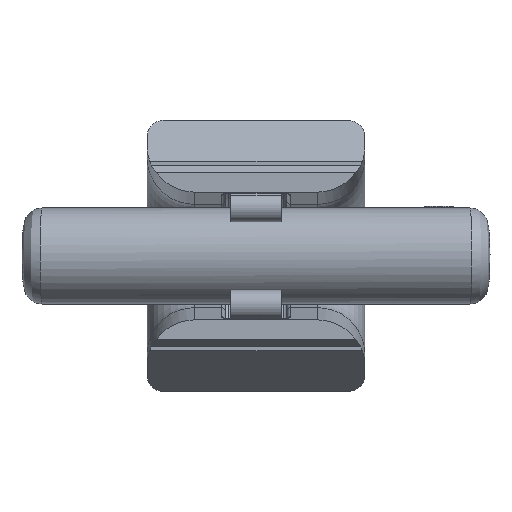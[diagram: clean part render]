
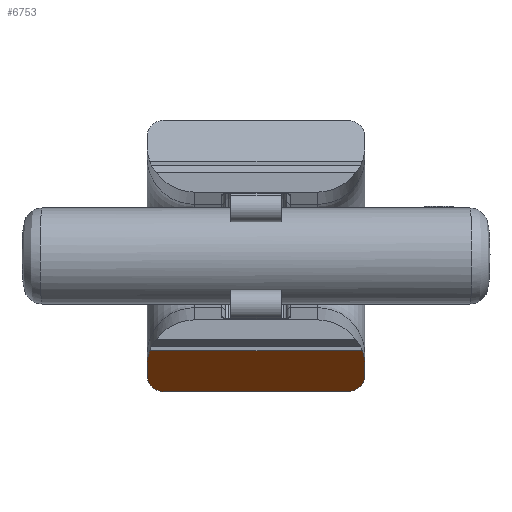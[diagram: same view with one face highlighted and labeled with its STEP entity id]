
A CAD part, front view. The second image highlights one B-rep face of the part: STEP entity #6753.
In plain terms, the highlighted planar face has unit normal (0, -0.643, -0.766).
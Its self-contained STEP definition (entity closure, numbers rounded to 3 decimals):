
#6=DIRECTION('',(0.,-0.766,0.643));
#7=VECTOR('',#6,5.783);
#8=CARTESIAN_POINT('',(-30.,11.5,-33.305));
#9=LINE('',#8,#7);
#24=CARTESIAN_POINT('',(-30.,11.5,-33.305));
#25=CARTESIAN_POINT('',(-30.,12.236,-33.922));
#26=CARTESIAN_POINT('',(-29.704,13.48,-34.966));
#27=CARTESIAN_POINT('',(-28.749,14.957,-36.205));
#28=CARTESIAN_POINT('',(-27.557,15.883,-36.983));
#29=CARTESIAN_POINT('',(-26.277,16.374,-37.395));
#30=CARTESIAN_POINT('',(-25.48,16.5,-37.5));
#31=CARTESIAN_POINT('',(-25.,16.5,-37.5));
#50=CARTESIAN_POINT('',(25.,16.5,-37.5));
#51=CARTESIAN_POINT('',(25.48,16.5,-37.5));
#52=CARTESIAN_POINT('',(26.277,16.374,-37.395));
#53=CARTESIAN_POINT('',(27.557,15.883,-36.983));
#54=CARTESIAN_POINT('',(28.749,14.957,-36.205));
#55=CARTESIAN_POINT('',(29.704,13.48,-34.966));
#56=CARTESIAN_POINT('',(30.,12.236,-33.922));
#57=CARTESIAN_POINT('',(30.,11.5,-33.305));
#63=DIRECTION('',(0.,-0.766,0.643));
#64=VECTOR('',#63,5.783);
#65=CARTESIAN_POINT('',(30.,11.5,-33.305));
#66=LINE('',#65,#64);
#90=CARTESIAN_POINT('',(30.,7.07,-29.587));
#91=CARTESIAN_POINT('',(30.,5.692,-28.431));
#92=CARTESIAN_POINT('',(29.787,4.335,-27.293));
#93=CARTESIAN_POINT('',(29.347,3.,-26.172));
#5006=DIRECTION('',(1.,0.,0.));
#5007=VECTOR('',#5006,50.);
#5008=CARTESIAN_POINT('',(-25.,16.5,-37.5));
#5009=LINE('',#5008,#5007);
#5508=CARTESIAN_POINT('',(-29.347,3.,-26.172));
#5509=CARTESIAN_POINT('',(-29.787,4.335,
-27.293));
#5510=CARTESIAN_POINT('',(-30.,5.692,-28.431));
#5511=CARTESIAN_POINT('',(-30.,7.07,-29.587));
#5525=DIRECTION('',(-1.,0.,0.));
#5526=VECTOR('',#5525,58.693);
#5527=CARTESIAN_POINT('',(29.347,3.,-26.172));
#5528=LINE('',#5527,#5526);
#5642=CARTESIAN_POINT('',(30.,11.5,-33.305));
#5644=VERTEX_POINT('',#5642);
#5646=CARTESIAN_POINT('',(25.,16.5,-37.5));
#5648=VERTEX_POINT('',#5646);
#5651=CARTESIAN_POINT('',(-30.,11.5,-33.305));
#5653=VERTEX_POINT('',#5651);
#5655=CARTESIAN_POINT('',(-25.,16.5,-37.5));
#5657=VERTEX_POINT('',#5655);
#5823=CARTESIAN_POINT('',(30.,7.07,-29.587));
#5825=VERTEX_POINT('',#5823);
#5826=CARTESIAN_POINT('',(-30.,7.07,-29.587));
#5828=VERTEX_POINT('',#5826);
#6209=VERTEX_POINT('',#93);
#6210=VERTEX_POINT('',#5508);
#6732=CARTESIAN_POINT('',(36.,16.5,-37.5));
#6733=DIRECTION('',(0.,0.643,0.766));
#6734=DIRECTION('',(0.,-0.766,0.643));
#6735=AXIS2_PLACEMENT_3D('',#6732,#6733,#6734);
#6736=PLANE('',#6735);
#6738=ORIENTED_EDGE('',*,*,#6737,.F.);
#6740=ORIENTED_EDGE('',*,*,#6739,.F.);
#6741=ORIENTED_EDGE('',*,*,#6724,.F.);
#6742=ORIENTED_EDGE('',*,*,#6696,.T.);
#6744=ORIENTED_EDGE('',*,*,#6743,.F.);
#6746=ORIENTED_EDGE('',*,*,#6745,.F.);
#6748=ORIENTED_EDGE('',*,*,#6747,.F.);
#6750=ORIENTED_EDGE('',*,*,#6749,.F.);
#6751=EDGE_LOOP('',(#6738,#6740,#6741,#6742,#6744,#6746,#6748,#6750));
#6752=FACE_OUTER_BOUND('',#6751,.F.);
#6753=ADVANCED_FACE('',(#6752),#6736,.F.);
#32=B_SPLINE_CURVE_WITH_KNOTS('',3,(#24,#25,#26,#27,#28,#29,#30,#31),
.UNSPECIFIED.,.F.,.F.,(4,1,1,1,1,4),(0.,0.25,0.5,0.75,0.875,1.),
.UNSPECIFIED.);
#58=B_SPLINE_CURVE_WITH_KNOTS('',3,(#50,#51,#52,#53,#54,#55,#56,#57),
.UNSPECIFIED.,.F.,.F.,(4,1,1,1,1,4),(0.,0.125,0.25,0.5,0.75,1.),
.UNSPECIFIED.);
#94=B_SPLINE_CURVE_WITH_KNOTS('',3,(#90,#91,#92,#93),.UNSPECIFIED.,.F.,.F.,(4,
4),(0.,1.),.UNSPECIFIED.);
#5512=B_SPLINE_CURVE_WITH_KNOTS('',3,(#5508,#5509,#5510,#5511),.UNSPECIFIED.,
.F.,.F.,(4,4),(0.,1.),.UNSPECIFIED.);
#6696=EDGE_CURVE('',#5653,#5828,#9,.T.);
#6724=EDGE_CURVE('',#5653,#5657,#32,.T.);
#6737=EDGE_CURVE('',#5648,#5644,#58,.T.);
#6739=EDGE_CURVE('',#5657,#5648,#5009,.T.);
#6743=EDGE_CURVE('',#6210,#5828,#5512,.T.);
#6745=EDGE_CURVE('',#6209,#6210,#5528,.T.);
#6747=EDGE_CURVE('',#5825,#6209,#94,.T.);
#6749=EDGE_CURVE('',#5644,#5825,#66,.T.);
